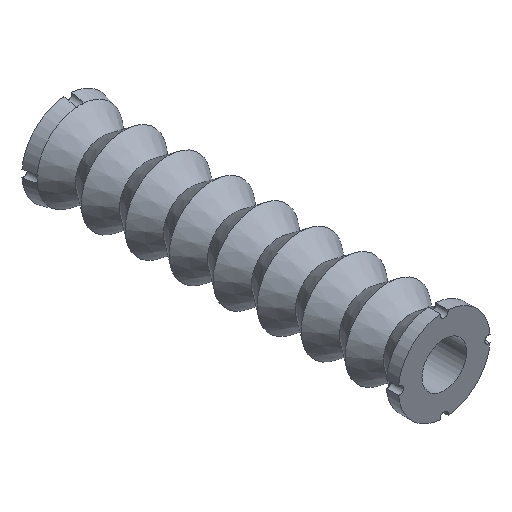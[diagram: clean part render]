
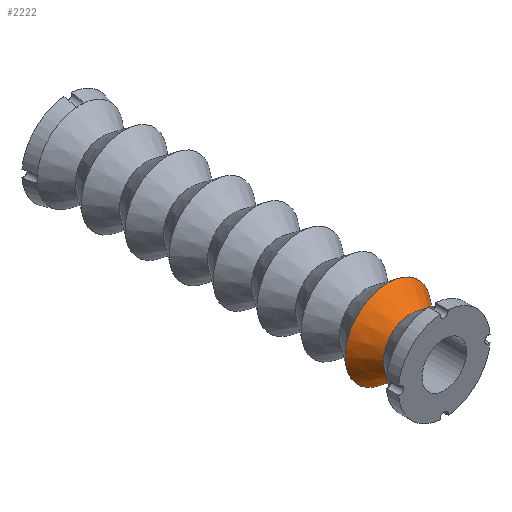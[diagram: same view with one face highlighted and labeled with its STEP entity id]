
A CAD part, isometric view. The second image highlights one B-rep face of the part: STEP entity #2222.
In plain terms, the highlighted conical face has half-angle 36.681 degrees and reference radius 8.21 mm.
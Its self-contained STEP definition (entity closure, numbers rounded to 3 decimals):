
#1037 = CONICAL_SURFACE('',#1038,13.29,0.64);
#1038 = AXIS2_PLACEMENT_3D('',#1039,#1040,#1041);
#1039 = CARTESIAN_POINT('',(0.,3.81,0.));
#1040 = DIRECTION('',(-0.,-1.,-0.));
#1041 = DIRECTION('',(1.,0.,0.));
#1523 = VERTEX_POINT('',#1524);
#1524 = CARTESIAN_POINT('',(8.21,10.63,0.));
#1555 = EDGE_CURVE('',#1523,#1523,#1556,.T.);
#1556 = SURFACE_CURVE('',#1557,(#1562,#1569),.PCURVE_S1.);
#1557 = CIRCLE('',#1558,8.21);
#1558 = AXIS2_PLACEMENT_3D('',#1559,#1560,#1561);
#1559 = CARTESIAN_POINT('',(0.,10.63,0.));
#1560 = DIRECTION('',(-0.,1.,0.));
#1561 = DIRECTION('',(1.,0.,0.));
#1562 = PCURVE('',#1037,#1563);
#1563 = DEFINITIONAL_REPRESENTATION('',(#1564),#1568);
#1564 = LINE('',#1565,#1566);
#1565 = CARTESIAN_POINT('',(-0.,-6.82));
#1566 = VECTOR('',#1567,1.);
#1567 = DIRECTION('',(-1.,-0.));
#1568 = ( GEOMETRIC_REPRESENTATION_CONTEXT(2) 
PARAMETRIC_REPRESENTATION_CONTEXT() REPRESENTATION_CONTEXT('2D SPACE',''
  ) );
#1569 = PCURVE('',#1570,#1575);
#1570 = CONICAL_SURFACE('',#1571,8.21,0.64);
#1571 = AXIS2_PLACEMENT_3D('',#1572,#1573,#1574);
#1572 = CARTESIAN_POINT('',(0.,10.63,0.));
#1573 = DIRECTION('',(0.,1.,0.));
#1574 = DIRECTION('',(1.,0.,0.));
#1575 = DEFINITIONAL_REPRESENTATION('',(#1576),#1580);
#1576 = LINE('',#1577,#1578);
#1577 = CARTESIAN_POINT('',(0.,0.));
#1578 = VECTOR('',#1579,1.);
#1579 = DIRECTION('',(1.,0.));
#1580 = ( GEOMETRIC_REPRESENTATION_CONTEXT(2) 
PARAMETRIC_REPRESENTATION_CONTEXT() REPRESENTATION_CONTEXT('2D SPACE',''
  ) );
#2222 = ADVANCED_FACE('',(#2223),#1570,.T.);
#2223 = FACE_BOUND('',#2224,.T.);
#2224 = EDGE_LOOP('',(#2225,#2226,#2249,#2276));
#2225 = ORIENTED_EDGE('',*,*,#1555,.T.);
#2226 = ORIENTED_EDGE('',*,*,#2227,.T.);
#2227 = EDGE_CURVE('',#1523,#2228,#2230,.T.);
#2228 = VERTEX_POINT('',#2229);
#2229 = CARTESIAN_POINT('',(13.29,17.45,0.));
#2230 = SEAM_CURVE('',#2231,(#2235,#2242),.PCURVE_S1.);
#2231 = LINE('',#2232,#2233);
#2232 = CARTESIAN_POINT('',(8.21,10.63,0.));
#2233 = VECTOR('',#2234,1.);
#2234 = DIRECTION('',(0.597,0.802,0.));
#2235 = PCURVE('',#1570,#2236);
#2236 = DEFINITIONAL_REPRESENTATION('',(#2237),#2241);
#2237 = LINE('',#2238,#2239);
#2238 = CARTESIAN_POINT('',(0.,0.));
#2239 = VECTOR('',#2240,1.);
#2240 = DIRECTION('',(0.,1.));
#2241 = ( GEOMETRIC_REPRESENTATION_CONTEXT(2) 
PARAMETRIC_REPRESENTATION_CONTEXT() REPRESENTATION_CONTEXT('2D SPACE',''
  ) );
#2242 = PCURVE('',#1570,#2243);
#2243 = DEFINITIONAL_REPRESENTATION('',(#2244),#2248);
#2244 = LINE('',#2245,#2246);
#2245 = CARTESIAN_POINT('',(6.283,0.));
#2246 = VECTOR('',#2247,1.);
#2247 = DIRECTION('',(0.,1.));
#2248 = ( GEOMETRIC_REPRESENTATION_CONTEXT(2) 
PARAMETRIC_REPRESENTATION_CONTEXT() REPRESENTATION_CONTEXT('2D SPACE',''
  ) );
#2249 = ORIENTED_EDGE('',*,*,#2250,.F.);
#2250 = EDGE_CURVE('',#2228,#2228,#2251,.T.);
#2251 = SURFACE_CURVE('',#2252,(#2257,#2264),.PCURVE_S1.);
#2252 = CIRCLE('',#2253,13.29);
#2253 = AXIS2_PLACEMENT_3D('',#2254,#2255,#2256);
#2254 = CARTESIAN_POINT('',(0.,17.45,0.));
#2255 = DIRECTION('',(-0.,1.,0.));
#2256 = DIRECTION('',(1.,0.,0.));
#2257 = PCURVE('',#1570,#2258);
#2258 = DEFINITIONAL_REPRESENTATION('',(#2259),#2263);
#2259 = LINE('',#2260,#2261);
#2260 = CARTESIAN_POINT('',(0.,6.82));
#2261 = VECTOR('',#2262,1.);
#2262 = DIRECTION('',(1.,0.));
#2263 = ( GEOMETRIC_REPRESENTATION_CONTEXT(2) 
PARAMETRIC_REPRESENTATION_CONTEXT() REPRESENTATION_CONTEXT('2D SPACE',''
  ) );
#2264 = PCURVE('',#2265,#2270);
#2265 = CONICAL_SURFACE('',#2266,13.29,0.64);
#2266 = AXIS2_PLACEMENT_3D('',#2267,#2268,#2269);
#2267 = CARTESIAN_POINT('',(0.,17.45,0.));
#2268 = DIRECTION('',(-0.,-1.,-0.));
#2269 = DIRECTION('',(1.,0.,0.));
#2270 = DEFINITIONAL_REPRESENTATION('',(#2271),#2275);
#2271 = LINE('',#2272,#2273);
#2272 = CARTESIAN_POINT('',(-0.,-0.));
#2273 = VECTOR('',#2274,1.);
#2274 = DIRECTION('',(-1.,-0.));
#2275 = ( GEOMETRIC_REPRESENTATION_CONTEXT(2) 
PARAMETRIC_REPRESENTATION_CONTEXT() REPRESENTATION_CONTEXT('2D SPACE',''
  ) );
#2276 = ORIENTED_EDGE('',*,*,#2227,.F.);
